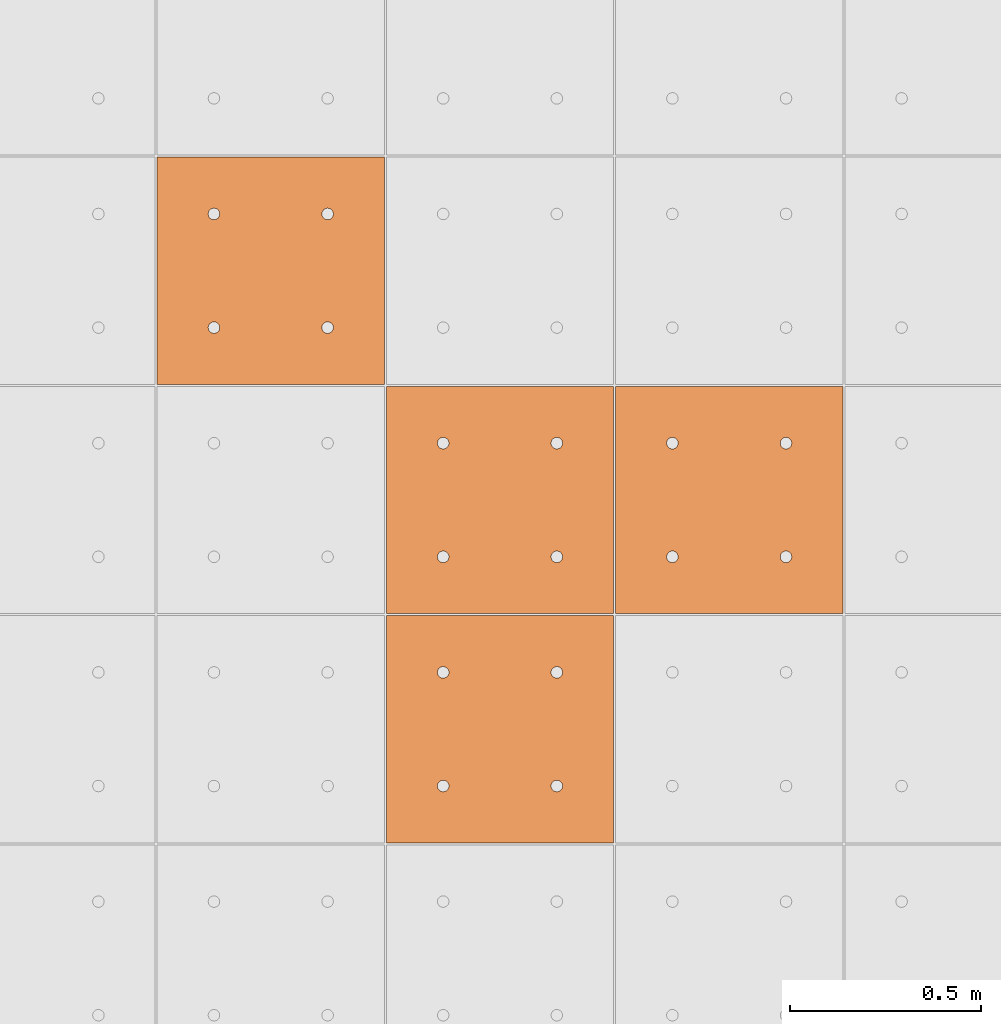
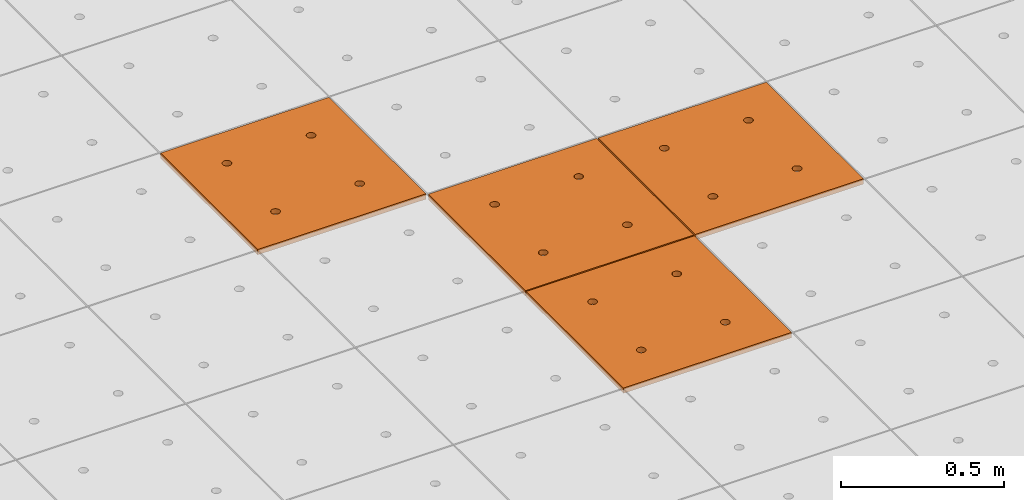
# One storey, part 238 of 338: 4 proxies, 1 element without a shape of its own.
"""IFC2X3 building model written with IfcOpenShell, lengths in millimetres."""

from ifc_helpers import new_model, entity, si_unit, converted_unit, derived_unit, money_unit, direction, frame, origin_with_axes, place, context, subcontext, project, spatial, faceted_brep, source, transform, mapped, material, type_object, type_shapes, element, aggregate, save


model = new_model("IFC2X3")

# Units and contexts
model_context = context("Model", 3, precision=0.01, world=origin_with_axes(), true_north=direction((0.0, 1.0)))
plan_context = context("Plan", 3, precision=0.01, world=origin_with_axes(), true_north=direction((0.0, 1.0)))
body_context = subcontext(model_context, "Body", "Model", "MODEL_VIEW")
ifc_project = project(units=[si_unit("LENGTHUNIT", "METRE", prefix="MILLI"), si_unit("AREAUNIT", "SQUARE_METRE"), si_unit("VOLUMEUNIT", "CUBIC_METRE"), converted_unit("PLANEANGLEUNIT", "DEGREE", entity("IfcPlaneAngleMeasure", 0.0174532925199), si_unit("PLANEANGLEUNIT", "RADIAN"), dimensions=[0, 0, 0, 0, 0, 0, 0]), money_unit("EUR"), converted_unit("TIMEUNIT", "Year", entity("IfcTimeMeasure", 31556926.0), si_unit("TIMEUNIT", "SECOND"), dimensions=[0, 0, 1, 0, 0, 0, 0]), si_unit("MASSUNIT", "GRAM", prefix="KILO"), si_unit("THERMODYNAMICTEMPERATUREUNIT", "DEGREE_CELSIUS"), si_unit("LUMINOUSINTENSITYUNIT", "LUMEN"), si_unit("ENERGYUNIT", "JOULE", prefix="MEGA"), derived_unit("THERMALCONDUCTANCEUNIT", [(si_unit("POWERUNIT", "WATT"), 1), (si_unit("LENGTHUNIT", "METRE"), -1), (si_unit("THERMODYNAMICTEMPERATUREUNIT", "KELVIN"), -1)]), derived_unit("SPECIFICHEATCAPACITYUNIT", [(si_unit("ENERGYUNIT", "JOULE"), 1), (si_unit("MASSUNIT", "GRAM", prefix="KILO"), -1), (si_unit("THERMODYNAMICTEMPERATUREUNIT", "KELVIN"), -1)]), derived_unit("MASSDENSITYUNIT", [(si_unit("MASSUNIT", "GRAM", prefix="KILO"), 1), (si_unit("VOLUMEUNIT", "CUBIC_METRE"), -1)])], contexts=[model_context, plan_context])

# Site, building, storey
site_placement = place(None, origin_with_axes())
site = spatial("IfcSite", under=ifc_project, at=site_placement, Name="Fortuinstraat Woensdrecht", CompositionType="ELEMENT")
building_placement = place(site_placement, origin_with_axes())
building = spatial("IfcBuilding", under=site, at=building_placement, Name="IKC Fortuna", CompositionType="ELEMENT")
storey_placement = place(building_placement, origin_with_axes())
storey = spatial("IfcBuildingStorey", under=building, at=storey_placement, Name="00 begane grond", CompositionType="ELEMENT", Elevation=0.0)

# Covering, proxies
covering_type = type_object("IfcCoveringType", Name="Curtain Wall Type", PredefinedType="CEILING")
covering_placement = place(storey_placement, frame((17451.9845996, 24118.5314449, 3210.0), z_axis=(0.0, 0.0, 1.0), x_axis=(1.0, 0.0, 0.0)))
covering = element("IfcCovering", 1, at=covering_placement, inside=storey, type_object=covering_type, Name="45_Plafondafwerking_P01", PredefinedType="CEILING")
ifc_material = material(Name="Gipsplaat")
building_element_proxy_type = type_object("IfcBuildingElementProxyType", Name="Main Panel 600 x 600 x 20", PredefinedType="NOTDEFINED")
shared_shape = source(origin_with_axes(), body_context, "Body", "Brep", [
    faceted_brep([(2.49999999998, 2.49999999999, -10.0), (300.0, 2.49999999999, -10.0), (300.0, 2.49999999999, 10.0), (2.49999999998, 2.49999999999, 10.0), (2.49999999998, 300.0, -10.0), (2.49999999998, 597.5, -10.0), (300.0, 597.5, -10.0), (597.5, 597.5, -10.0), (597.5, 300.0, -10.0), (597.5, 2.49999999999, -10.0), (166.25, 450.06232995, -10.0), (165.79423259, 452.64711538, -10.0), (164.896546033, 455.11348892, -10.0), (163.58421608, 457.38651108, -10.0), (161.897117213, 459.39711721, -10.0), (159.886511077, 461.08421608, -10.0), (157.613488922, 462.39654603, -10.0), (155.147115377, 463.29423259, -10.0), (152.562329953, 463.75, -10.0), (149.937670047, 463.75, -10.0), (147.352884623, 463.29423259, -10.0), (144.886511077, 462.39654603, -10.0), (142.613488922, 461.08421608, -10.0), (140.602882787, 459.39711721, -10.0), (138.91578392, 457.38651108, -10.0), (137.603453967, 455.11348892, -10.0), (136.705767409, 452.64711538, -10.0), (136.25, 450.06232995, -10.0), (136.25, 448.75, -10.0), (136.25, 447.43767005, -10.0), (136.705767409, 444.85288462, -10.0), (137.603453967, 442.38651108, -10.0), (138.91578392, 440.11348892, -10.0), (140.602882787, 438.10288279, -10.0), (142.613488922, 436.41578392, -10.0), (144.886511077, 435.10345397, -10.0), (147.352884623, 434.20576741, -10.0), (149.937670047, 433.75, -10.0), (152.562329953, 433.75, -10.0), (155.147115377, 434.20576741, -10.0), (157.613488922, 435.10345397, -10.0), (159.886511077, 436.41578392, -10.0), (161.897117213, 438.10288279, -10.0), (163.58421608, 440.11348892, -10.0), (164.896546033, 442.38651108, -10.0), (165.79423259, 444.85288462, -10.0), (166.25, 447.43767005, -10.0), (463.75, 450.06232995, -10.0), (463.29423259, 452.64711538, -10.0), (462.396546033, 455.11348892, -10.0), (461.08421608, 457.38651108, -10.0), (459.397117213, 459.39711721, -10.0), (457.386511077, 461.08421608, -10.0), (455.113488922, 462.39654603, -10.0), (452.647115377, 463.29423259, -10.0), (450.062329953, 463.75, -10.0), (447.437670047, 463.75, -10.0), (444.852884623, 463.29423259, -10.0), (442.386511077, 462.39654603, -10.0), (440.113488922, 461.08421608, -10.0), (438.102882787, 459.39711721, -10.0), (436.41578392, 457.38651108, -10.0), (435.103453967, 455.11348892, -10.0), (434.205767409, 452.64711538, -10.0), (433.75, 450.06232995, -10.0), (433.75, 448.75, -10.0), (433.75, 447.43767005, -10.0), (434.205767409, 444.85288462, -10.0), (435.103453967, 442.38651108, -10.0), (436.41578392, 440.11348892, -10.0), (438.102882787, 438.10288279, -10.0), (440.113488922, 436.41578392, -10.0), (442.386511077, 435.10345397, -10.0), (444.852884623, 434.20576741, -10.0), (447.437670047, 433.75, -10.0), (450.062329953, 433.75, -10.0), (452.647115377, 434.20576741, -10.0), (455.113488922, 435.10345397, -10.0), (457.386511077, 436.41578392, -10.0), (459.397117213, 438.10288279, -10.0), (461.08421608, 440.11348892, -10.0), (462.396546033, 442.38651108, -10.0), (463.29423259, 444.85288462, -10.0), (463.75, 447.43767005, -10.0), (463.75, 152.56232995, -10.0), (463.29423259, 155.14711538, -10.0), (462.396546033, 157.61348892, -10.0), (461.08421608, 159.88651108, -10.0), (459.397117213, 161.89711721, -10.0), (457.386511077, 163.58421608, -10.0), (455.113488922, 164.89654603, -10.0), (452.647115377, 165.79423259, -10.0), (450.062329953, 166.25, -10.0), (447.437670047, 166.25, -10.0), (444.852884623, 165.79423259, -10.0), (442.386511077, 164.89654603, -10.0), (440.113488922, 163.58421608, -10.0), (438.102882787, 161.89711721, -10.0), (436.41578392, 159.88651108, -10.0), (435.103453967, 157.61348892, -10.0), (434.205767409, 155.14711538, -10.0), (433.75, 152.56232995, -10.0), (433.75, 151.25, -10.0), (433.75, 149.93767005, -10.0), (434.205767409, 147.35288462, -10.0), (435.103453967, 144.88651108, -10.0), (436.41578392, 142.61348892, -10.0), (438.102882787, 140.60288279, -10.0), (440.113488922, 138.91578392, -10.0), (442.386511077, 137.60345397, -10.0), (444.852884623, 136.70576741, -10.0), (447.437670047, 136.25, -10.0), (450.062329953, 136.25, -10.0), (452.647115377, 136.70576741, -10.0), (455.113488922, 137.60345397, -10.0), (457.386511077, 138.91578392, -10.0), (459.397117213, 140.60288279, -10.0), (461.08421608, 142.61348892, -10.0), (462.396546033, 144.88651108, -10.0), (463.29423259, 147.35288462, -10.0), (463.75, 149.93767005, -10.0), (166.25, 152.56232995, -10.0), (165.79423259, 155.14711538, -10.0), (164.896546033, 157.61348892, -10.0), (163.58421608, 159.88651108, -10.0), (161.897117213, 161.89711721, -10.0), (159.886511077, 163.58421608, -10.0), (157.613488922, 164.89654603, -10.0), (155.147115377, 165.79423259, -10.0), (152.562329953, 166.25, -10.0), (149.937670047, 166.25, -10.0), (147.352884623, 165.79423259, -10.0), (144.886511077, 164.89654603, -10.0), (142.613488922, 163.58421608, -10.0), (140.602882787, 161.89711721, -10.0), (138.91578392, 159.88651108, -10.0), (137.603453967, 157.61348892, -10.0), (136.705767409, 155.14711538, -10.0), (136.25, 152.56232995, -10.0), (136.25, 151.25, -10.0), (136.25, 149.93767005, -10.0), (136.705767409, 147.35288462, -10.0), (137.603453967, 144.88651108, -10.0), (138.91578392, 142.61348892, -10.0), (140.602882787, 140.60288279, -10.0), (142.613488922, 138.91578392, -10.0), (144.886511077, 137.60345397, -10.0), (147.352884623, 136.70576741, -10.0), (149.937670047, 136.25, -10.0), (152.562329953, 136.25, -10.0), (155.147115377, 136.70576741, -10.0), (157.613488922, 137.60345397, -10.0), (159.886511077, 138.91578392, -10.0), (161.897117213, 140.60288279, -10.0), (163.58421608, 142.61348892, -10.0), (164.896546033, 144.88651108, -10.0), (165.79423259, 147.35288462, -10.0), (166.25, 149.93767005, -10.0), (597.5, 2.49999999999, 10.0), (597.5, 300.0, 10.0), (597.5, 597.5, 10.0), (300.0, 597.5, 10.0), (2.49999999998, 597.5, 10.0), (2.49999999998, 300.0, 10.0), (166.25, 450.06232995, 10.0), (166.25, 447.43767005, 10.0), (165.79423259, 444.85288462, 10.0), (164.896546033, 442.38651108, 10.0), (163.58421608, 440.11348892, 10.0), (161.897117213, 438.10288279, 10.0), (159.886511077, 436.41578392, 10.0), (157.613488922, 435.10345397, 10.0), (155.147115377, 434.20576741, 10.0), (152.562329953, 433.75, 10.0), (149.937670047, 433.75, 10.0), (147.352884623, 434.20576741, 10.0), (144.886511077, 435.10345397, 10.0), (142.613488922, 436.41578392, 10.0), (140.602882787, 438.10288279, 10.0), (138.91578392, 440.11348892, 10.0), (137.603453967, 442.38651108, 10.0), (136.705767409, 444.85288462, 10.0), (136.25, 447.43767005, 10.0), (136.25, 448.75, 10.0), (136.25, 450.06232995, 10.0), (136.705767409, 452.64711538, 10.0), (137.603453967, 455.11348892, 10.0), (138.91578392, 457.38651108, 10.0), (140.602882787, 459.39711721, 10.0), (142.613488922, 461.08421608, 10.0), (144.886511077, 462.39654603, 10.0), (147.352884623, 463.29423259, 10.0), (149.937670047, 463.75, 10.0), (152.562329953, 463.75, 10.0), (155.147115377, 463.29423259, 10.0), (157.613488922, 462.39654603, 10.0), (159.886511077, 461.08421608, 10.0), (161.897117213, 459.39711721, 10.0), (163.58421608, 457.38651108, 10.0), (164.896546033, 455.11348892, 10.0), (165.79423259, 452.64711538, 10.0), (463.75, 450.06232995, 10.0), (463.75, 447.43767005, 10.0), (463.29423259, 444.85288462, 10.0), (462.396546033, 442.38651108, 10.0), (461.08421608, 440.11348892, 10.0), (459.397117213, 438.10288279, 10.0), (457.386511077, 436.41578392, 10.0), (455.113488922, 435.10345397, 10.0), (452.647115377, 434.20576741, 10.0), (450.062329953, 433.75, 10.0), (447.437670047, 433.75, 10.0), (444.852884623, 434.20576741, 10.0), (442.386511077, 435.10345397, 10.0), (440.113488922, 436.41578392, 10.0), (438.102882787, 438.10288279, 10.0), (436.41578392, 440.11348892, 10.0), (435.103453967, 442.38651108, 10.0), (434.205767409, 444.85288462, 10.0), (433.75, 447.43767005, 10.0), (433.75, 448.75, 10.0), (433.75, 450.06232995, 10.0), (434.205767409, 452.64711538, 10.0), (435.103453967, 455.11348892, 10.0), (436.41578392, 457.38651108, 10.0), (438.102882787, 459.39711721, 10.0), (440.113488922, 461.08421608, 10.0), (442.386511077, 462.39654603, 10.0), (444.852884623, 463.29423259, 10.0), (447.437670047, 463.75, 10.0), (450.062329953, 463.75, 10.0), (452.647115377, 463.29423259, 10.0), (455.113488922, 462.39654603, 10.0), (457.386511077, 461.08421608, 10.0), (459.397117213, 459.39711721, 10.0), (461.08421608, 457.38651108, 10.0), (462.396546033, 455.11348892, 10.0), (463.29423259, 452.64711538, 10.0), (463.75, 152.56232995, 10.0), (463.75, 149.93767005, 10.0), (463.29423259, 147.35288462, 10.0), (462.396546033, 144.88651108, 10.0), (461.08421608, 142.61348892, 10.0), (459.397117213, 140.60288279, 10.0), (457.386511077, 138.91578392, 10.0), (455.113488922, 137.60345397, 10.0), (452.647115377, 136.70576741, 10.0), (450.062329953, 136.25, 10.0), (447.437670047, 136.25, 10.0), (444.852884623, 136.70576741, 10.0), (442.386511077, 137.60345397, 10.0), (440.113488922, 138.91578392, 10.0), (438.102882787, 140.60288279, 10.0), (436.41578392, 142.61348892, 10.0), (435.103453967, 144.88651108, 10.0), (434.205767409, 147.35288462, 10.0), (433.75, 149.93767005, 10.0), (433.75, 151.25, 10.0), (433.75, 152.56232995, 10.0), (434.205767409, 155.14711538, 10.0), (435.103453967, 157.61348892, 10.0), (436.41578392, 159.88651108, 10.0), (438.102882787, 161.89711721, 10.0), (440.113488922, 163.58421608, 10.0), (442.386511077, 164.89654603, 10.0), (444.852884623, 165.79423259, 10.0), (447.437670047, 166.25, 10.0), (450.062329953, 166.25, 10.0), (452.647115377, 165.79423259, 10.0), (455.113488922, 164.89654603, 10.0), (457.386511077, 163.58421608, 10.0), (459.397117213, 161.89711721, 10.0), (461.08421608, 159.88651108, 10.0), (462.396546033, 157.61348892, 10.0), (463.29423259, 155.14711538, 10.0), (166.25, 152.56232995, 10.0), (166.25, 149.93767005, 10.0), (165.79423259, 147.35288462, 10.0), (164.896546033, 144.88651108, 10.0), (163.58421608, 142.61348892, 10.0), (161.897117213, 140.60288279, 10.0), (159.886511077, 138.91578392, 10.0), (157.613488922, 137.60345397, 10.0), (155.147115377, 136.70576741, 10.0), (152.562329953, 136.25, 10.0), (149.937670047, 136.25, 10.0), (147.352884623, 136.70576741, 10.0), (144.886511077, 137.60345397, 10.0), (142.613488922, 138.91578392, 10.0), (140.602882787, 140.60288279, 10.0), (138.91578392, 142.61348892, 10.0), (137.603453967, 144.88651108, 10.0), (136.705767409, 147.35288462, 10.0), (136.25, 149.93767005, 10.0), (136.25, 151.25, 10.0), (136.25, 152.56232995, 10.0), (136.705767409, 155.14711538, 10.0), (137.603453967, 157.61348892, 10.0), (138.91578392, 159.88651108, 10.0), (140.602882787, 161.89711721, 10.0), (142.613488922, 163.58421608, 10.0), (144.886511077, 164.89654603, 10.0), (147.352884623, 165.79423259, 10.0), (149.937670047, 166.25, 10.0), (152.562329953, 166.25, 10.0), (155.147115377, 165.79423259, 10.0), (157.613488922, 164.89654603, 10.0), (159.886511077, 163.58421608, 10.0), (161.897117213, 161.89711721, 10.0), (163.58421608, 159.88651108, 10.0), (164.896546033, 157.61348892, 10.0), (165.79423259, 155.14711538, 10.0)], [[[0, 1, 2, 3]], [[0, 4, 5, 6, 7, 8, 9, 1], [10, 11, 12, 13, 14, 15, 16, 17, 18, 19, 20, 21, 22, 23, 24, 25, 26, 27, 28, 29, 30, 31, 32, 33, 34, 35, 36, 37, 38, 39, 40, 41, 42, 43, 44, 45, 46], [47, 48, 49, 50, 51, 52, 53, 54, 55, 56, 57, 58, 59, 60, 61, 62, 63, 64, 65, 66, 67, 68, 69, 70, 71, 72, 73, 74, 75, 76, 77, 78, 79, 80, 81, 82, 83], [84, 85, 86, 87, 88, 89, 90, 91, 92, 93, 94, 95, 96, 97, 98, 99, 100, 101, 102, 103, 104, 105, 106, 107, 108, 109, 110, 111, 112, 113, 114, 115, 116, 117, 118, 119, 120], [121, 122, 123, 124, 125, 126, 127, 128, 129, 130, 131, 132, 133, 134, 135, 136, 137, 138, 139, 140, 141, 142, 143, 144, 145, 146, 147, 148, 149, 150, 151, 152, 153, 154, 155, 156, 157]], [[1, 9, 158, 2]], [[3, 2, 158, 159, 160, 161, 162, 163], [164, 165, 166, 167, 168, 169, 170, 171, 172, 173, 174, 175, 176, 177, 178, 179, 180, 181, 182, 183, 184, 185, 186, 187, 188, 189, 190, 191, 192, 193, 194, 195, 196, 197, 198, 199, 200], [201, 202, 203, 204, 205, 206, 207, 208, 209, 210, 211, 212, 213, 214, 215, 216, 217, 218, 219, 220, 221, 222, 223, 224, 225, 226, 227, 228, 229, 230, 231, 232, 233, 234, 235, 236, 237], [238, 239, 240, 241, 242, 243, 244, 245, 246, 247, 248, 249, 250, 251, 252, 253, 254, 255, 256, 257, 258, 259, 260, 261, 262, 263, 264, 265, 266, 267, 268, 269, 270, 271, 272, 273, 274], [275, 276, 277, 278, 279, 280, 281, 282, 283, 284, 285, 286, 287, 288, 289, 290, 291, 292, 293, 294, 295, 296, 297, 298, 299, 300, 301, 302, 303, 304, 305, 306, 307, 308, 309, 310, 311]], [[4, 0, 3, 163]], [[5, 4, 163, 162]], [[6, 5, 162, 161]], [[7, 6, 161, 160]], [[8, 7, 160, 159]], [[9, 8, 159, 158]], [[11, 10, 164, 200]], [[12, 11, 200, 199]], [[13, 12, 199, 198]], [[14, 13, 198, 197]], [[15, 14, 197, 196]], [[16, 15, 196, 195]], [[17, 16, 195, 194]], [[18, 17, 194, 193]], [[19, 18, 193, 192]], [[20, 19, 192, 191]], [[21, 20, 191, 190]], [[22, 21, 190, 189]], [[23, 22, 189, 188]], [[24, 23, 188, 187]], [[25, 24, 187, 186]], [[26, 25, 186, 185]], [[27, 26, 185, 184]], [[28, 27, 184, 183]], [[29, 28, 183, 182]], [[30, 29, 182, 181]], [[31, 30, 181, 180]], [[32, 31, 180, 179]], [[33, 32, 179, 178]], [[34, 33, 178, 177]], [[35, 34, 177, 176]], [[36, 35, 176, 175]], [[37, 36, 175, 174]], [[38, 37, 174, 173]], [[39, 38, 173, 172]], [[40, 39, 172, 171]], [[41, 40, 171, 170]], [[42, 41, 170, 169]], [[43, 42, 169, 168]], [[44, 43, 168, 167]], [[45, 44, 167, 166]], [[46, 45, 166, 165]], [[10, 46, 165, 164]], [[48, 47, 201, 237]], [[49, 48, 237, 236]], [[50, 49, 236, 235]], [[51, 50, 235, 234]], [[52, 51, 234, 233]], [[53, 52, 233, 232]], [[54, 53, 232, 231]], [[55, 54, 231, 230]], [[56, 55, 230, 229]], [[57, 56, 229, 228]], [[58, 57, 228, 227]], [[59, 58, 227, 226]], [[60, 59, 226, 225]], [[61, 60, 225, 224]], [[62, 61, 224, 223]], [[63, 62, 223, 222]], [[64, 63, 222, 221]], [[65, 64, 221, 220]], [[66, 65, 220, 219]], [[67, 66, 219, 218]], [[68, 67, 218, 217]], [[69, 68, 217, 216]], [[70, 69, 216, 215]], [[71, 70, 215, 214]], [[72, 71, 214, 213]], [[73, 72, 213, 212]], [[74, 73, 212, 211]], [[75, 74, 211, 210]], [[76, 75, 210, 209]], [[77, 76, 209, 208]], [[78, 77, 208, 207]], [[79, 78, 207, 206]], [[80, 79, 206, 205]], [[81, 80, 205, 204]], [[82, 81, 204, 203]], [[83, 82, 203, 202]], [[47, 83, 202, 201]], [[85, 84, 238, 274]], [[86, 85, 274, 273]], [[87, 86, 273, 272]], [[88, 87, 272, 271]], [[89, 88, 271, 270]], [[90, 89, 270, 269]], [[91, 90, 269, 268]], [[92, 91, 268, 267]], [[93, 92, 267, 266]], [[94, 93, 266, 265]], [[95, 94, 265, 264]], [[96, 95, 264, 263]], [[97, 96, 263, 262]], [[98, 97, 262, 261]], [[99, 98, 261, 260]], [[100, 99, 260, 259]], [[101, 100, 259, 258]], [[102, 101, 258, 257]], [[103, 102, 257, 256]], [[104, 103, 256, 255]], [[105, 104, 255, 254]], [[106, 105, 254, 253]], [[107, 106, 253, 252]], [[108, 107, 252, 251]], [[109, 108, 251, 250]], [[110, 109, 250, 249]], [[111, 110, 249, 248]], [[112, 111, 248, 247]], [[113, 112, 247, 246]], [[114, 113, 246, 245]], [[115, 114, 245, 244]], [[116, 115, 244, 243]], [[117, 116, 243, 242]], [[118, 117, 242, 241]], [[119, 118, 241, 240]], [[120, 119, 240, 239]], [[84, 120, 239, 238]], [[122, 121, 275, 311]], [[123, 122, 311, 310]], [[124, 123, 310, 309]], [[125, 124, 309, 308]], [[126, 125, 308, 307]], [[127, 126, 307, 306]], [[128, 127, 306, 305]], [[129, 128, 305, 304]], [[130, 129, 304, 303]], [[131, 130, 303, 302]], [[132, 131, 302, 301]], [[133, 132, 301, 300]], [[134, 133, 300, 299]], [[135, 134, 299, 298]], [[136, 135, 298, 297]], [[137, 136, 297, 296]], [[138, 137, 296, 295]], [[139, 138, 295, 294]], [[140, 139, 294, 293]], [[141, 140, 293, 292]], [[142, 141, 292, 291]], [[143, 142, 291, 290]], [[144, 143, 290, 289]], [[145, 144, 289, 288]], [[146, 145, 288, 287]], [[147, 146, 287, 286]], [[148, 147, 286, 285]], [[149, 148, 285, 284]], [[150, 149, 284, 283]], [[151, 150, 283, 282]], [[152, 151, 282, 281]], [[153, 152, 281, 280]], [[154, 153, 280, 279]], [[155, 154, 279, 278]], [[156, 155, 278, 277]], [[157, 156, 277, 276]], [[121, 157, 276, 275]]]),
])
type_shapes(building_element_proxy_type, [shared_shape])
proxy_1_placement = place(covering_placement, frame((-600.0, -3600.0, 1.1768364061e-10), z_axis=(0.0, 0.0, 1.0), x_axis=(1.0, 0.0, 0.0)))
proxy_1 = element("IfcBuildingElementProxy", 2, at=proxy_1_placement, type_object=building_element_proxy_type, material=ifc_material, Name="__600x650 Rockfon Krios", context=body_context, shape_type="MappedRepresentation", body=[
    mapped(shared_shape, transform((300.0, 300.0, 0.0), x_axis=(-1.0, 0.0, 0.0), y_axis=(0.0, -1.0, 0.0), z_axis=(0.0, 0.0, 1.0))),
])
proxy_2_placement = place(covering_placement, frame((-1800.0, -3000.0, 1.56763491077e-10), z_axis=(0.0, 0.0, 1.0), x_axis=(1.0, 0.0, 0.0)))
proxy_2 = element("IfcBuildingElementProxy", 3, at=proxy_2_placement, type_object=building_element_proxy_type, material=ifc_material, Name="__600x756 Rockfon Krios", context=body_context, shape_type="MappedRepresentation", body=[
    mapped(shared_shape, transform((300.0, 300.0, 0.0), x_axis=(-1.0, 0.0, 0.0), y_axis=(0.0, -1.0, 0.0), z_axis=(0.0, 0.0, 1.0))),
])
proxy_3_placement = place(covering_placement, frame((-1200.0, -3600.0, 1.37223565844e-10), z_axis=(0.0, 0.0, 1.0), x_axis=(1.0, 0.0, 0.0)))
proxy_3 = element("IfcBuildingElementProxy", 4, at=proxy_3_placement, type_object=building_element_proxy_type, material=ifc_material, Name="__600x782 Rockfon Krios", context=body_context, shape_type="MappedRepresentation", body=[
    mapped(shared_shape, transform((300.0, 300.0, 0.0), x_axis=(-1.0, 0.0, 0.0), y_axis=(0.0, -1.0, 0.0), z_axis=(0.0, 0.0, 1.0))),
])
proxy_4_placement = place(covering_placement, frame((-1200.0, -4200.0, 1.37223565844e-10), z_axis=(0.0, 0.0, 1.0), x_axis=(1.0, 0.0, 0.0)))
proxy_4 = element("IfcBuildingElementProxy", 5, at=proxy_4_placement, type_object=building_element_proxy_type, material=ifc_material, Name="__600x783 Rockfon Krios", context=body_context, shape_type="MappedRepresentation", body=[
    mapped(shared_shape, transform((300.0, 300.0, 0.0), x_axis=(-1.0, 0.0, 0.0), y_axis=(0.0, -1.0, 0.0), z_axis=(0.0, 0.0, 1.0))),
])
aggregate(covering, [proxy_1, proxy_2, proxy_3, proxy_4])

save(model, "model.ifc")
